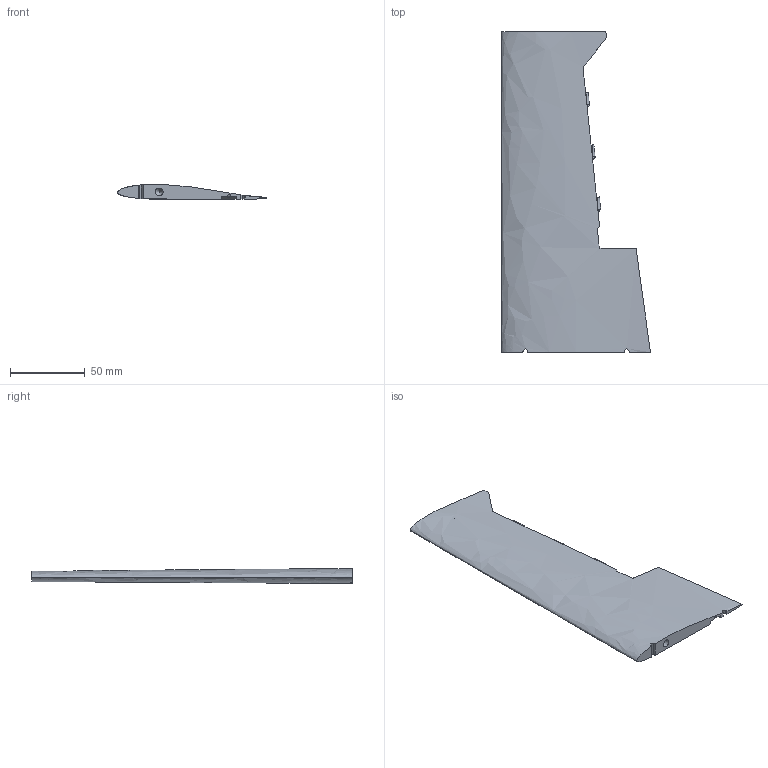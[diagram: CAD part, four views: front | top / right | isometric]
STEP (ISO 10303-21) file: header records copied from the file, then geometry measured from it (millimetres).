
FILE_DESCRIPTION(('Open CASCADE Model'),'2;1');
FILE_NAME('Open CASCADE Shape Model','2026-10-04T21:26:21',('Author'),( 'Open CASCADE'),'Open CASCADE STEP processor 7.9','Open CASCADE 7.9' ,'Unknown');
FILE_SCHEMA(('AUTOMOTIVE_DESIGN { 1 0 10303 214 1 1 1 1 }'));
Length unit declared in the file: millimetre
Products named in the file (1): Open CASCADE STEP translator 7.9 16
Bounding box: 99.95 x 215 x 9.88 mm (x, y, z)
Volume: 92760 mm3; surface area: 37387.6 mm2
Topology: 1 solids, 1 shells, 104 faces, 338 edges, 229 vertices
Faces by surface type: plane 82, cylinder 17, bspline 3, cone 2
Full cylindrical faces by diameter (mm): 1.6 x4, 2.2 x1, 5.2 x1
Entity records: 15520 total; most frequent: CARTESIAN_POINT 9567, DIRECTION 895, ORIENTED_EDGE 676, PCURVE 676, DEFINITIONAL_REPRESENTATION 676, B_SPLINE_CURVE_WITH_KNOTS 429, LINE 355, VECTOR 355
